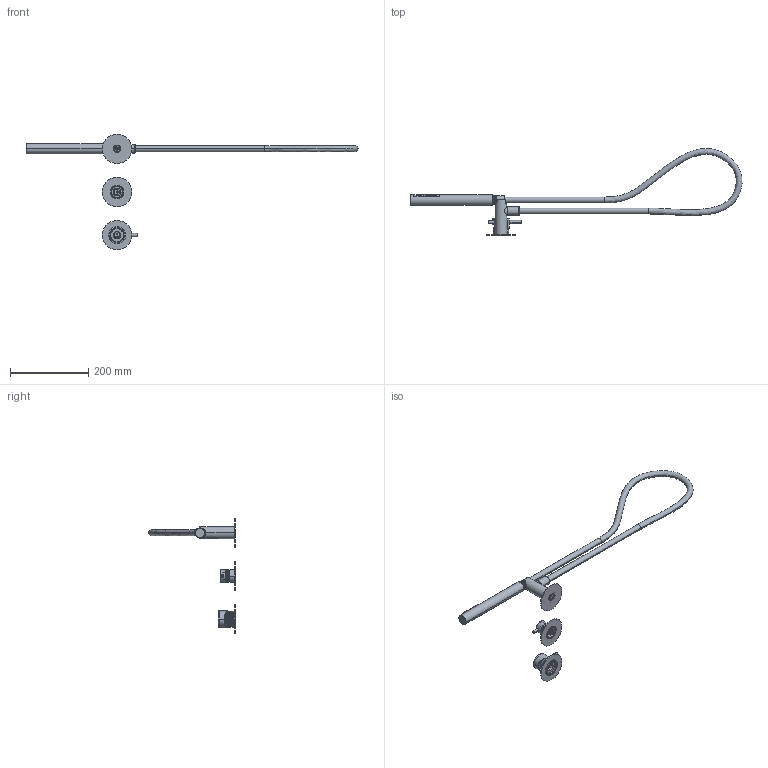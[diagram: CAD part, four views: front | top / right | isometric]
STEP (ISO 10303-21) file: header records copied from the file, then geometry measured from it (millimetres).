
FILE_DESCRIPTION((''),'2;1');
FILE_NAME('3D_SW0001','2024-10-01T13:45:41',('volponeff'),(''),'CREO PARAMETRIC BY PTC INC, 2022014','CREO PARAMETRIC BY PTC INC, 2022014','');
FILE_SCHEMA(('CONFIG_CONTROL_DESIGN'));
Products named in the file (1): 3D_SW0001
Bounding box: 846.05 x 221.19 x 295 mm (x, y, z)
Volume: 432650.3 mm3; surface area: 196375.7 mm2
Topology: 7 solids, 7 shells, 1376 faces, 3577 edges, 2295 vertices
Faces by surface type: cylinder 685, plane 301, bspline 161, cone 139, torus 82, sphere 8
Entity records: 132803 total; most frequent: CARTESIAN_POINT 101428, ORIENTED_EDGE 7102, DIRECTION 5545, EDGE_CURVE 3551, VERTEX_POINT 2295, AXIS2_PLACEMENT_3D 2090, EDGE_LOOP 1536, FACE_OUTER_BOUND 1376
